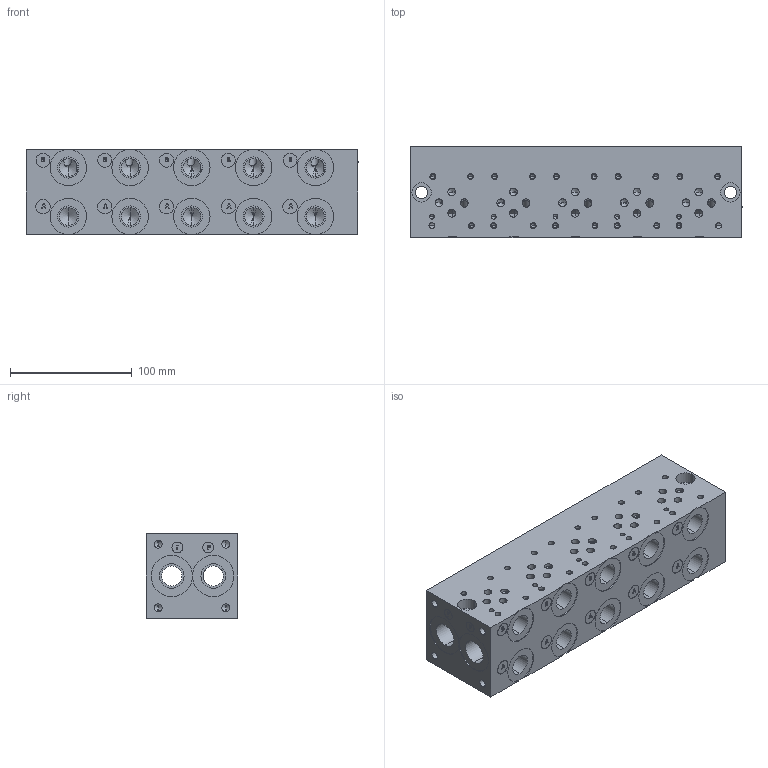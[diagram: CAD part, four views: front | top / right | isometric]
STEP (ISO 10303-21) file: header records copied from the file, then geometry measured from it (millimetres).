
FILE_DESCRIPTION (( 'STEP AP203' ), '1' );
FILE_NAME ('BM-ASP03S2-05-1_Z.STEP', '2015-01-06T15:39:17', ( '' ), ( '' ), 'SwSTEP 2.0', 'SolidWorks 2014', '' );
FILE_SCHEMA (( 'CONFIG_CONTROL_DESIGN' ));
Length unit declared in the file: inch
Products named in the file (1): BM-ASP03S2-05-1_Z
Bounding box: 273.05 x 74.93 x 69.85 mm (x, y, z)
Volume: 1206025.9 mm3; surface area: 154587.4 mm2
Topology: 1 solids, 1 shells, 676 faces, 1723 edges, 1059 vertices
Faces by surface type: cylinder 268, plane 234, cone 117, bspline 57
Entity records: 24474 total; most frequent: CARTESIAN_POINT 8670, ORIENTED_EDGE 3242, DIRECTION 3144, EDGE_CURVE 1621, AXIS2_PLACEMENT_3D 1137, VERTEX_POINT 1059, VECTOR 870, LINE 870
